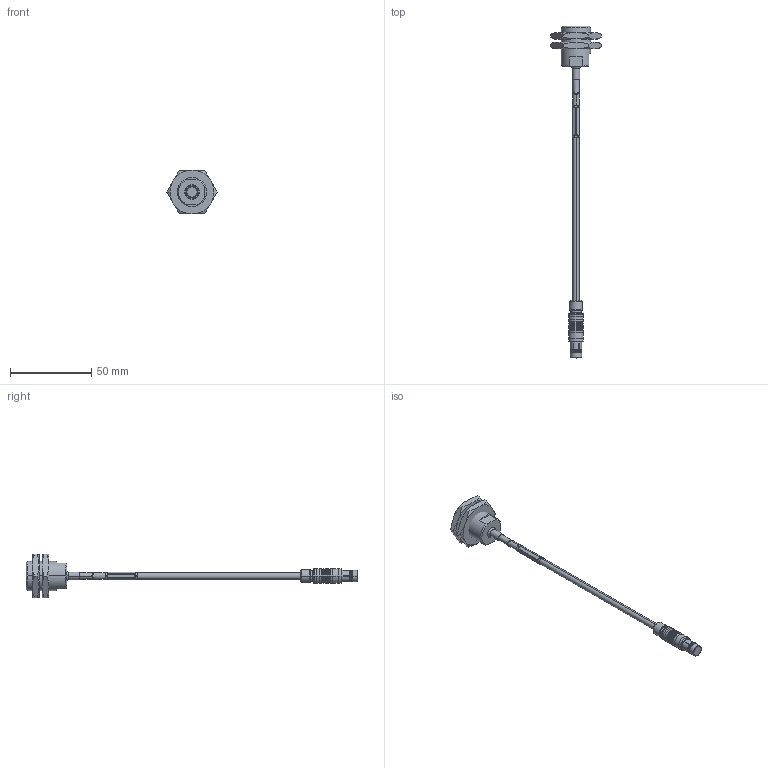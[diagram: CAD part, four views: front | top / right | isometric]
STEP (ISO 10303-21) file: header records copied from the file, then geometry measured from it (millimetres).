
FILE_DESCRIPTION((''),'2;1');
FILE_NAME('0000181090_ASM','2018-08-06T',('11000065'),(''),'CREO PARAMETRIC BY PTC INC, 2018070','CREO PARAMETRIC BY PTC INC, 2018070','');
FILE_SCHEMA(('AUTOMOTIVE_DESIGN { 1 0 10303 214 1 1 1 1 }'));
Length unit declared in the file: millimetre
Products named in the file (4): 0000181087; 0000045655; 0000181487; 0000181090_ASM
Assembly tree (4 placements, depth 2):
  0000181090_ASM
    0000181087
    0000045655  x2
    0000181487
Bounding box: 31.18 x 204.07 x 27 mm (x, y, z)
Volume: 12978.3 mm3; surface area: 8645.4 mm2
Topology: 4 solids, 5 shells, 332 faces, 771 edges, 476 vertices
Faces by surface type: cylinder 116, plane 91, cone 85, torus 36, revolution 4
Entity records: 12346 total; most frequent: CARTESIAN_POINT 2653, DIRECTION 1502, ORIENTED_EDGE 1438, PRESENTATION_STYLE_ASSIGNMENT 745, STYLED_ITEM 722, CURVE_STYLE 719, EDGE_CURVE 719, AXIS2_PLACEMENT_3D 625
